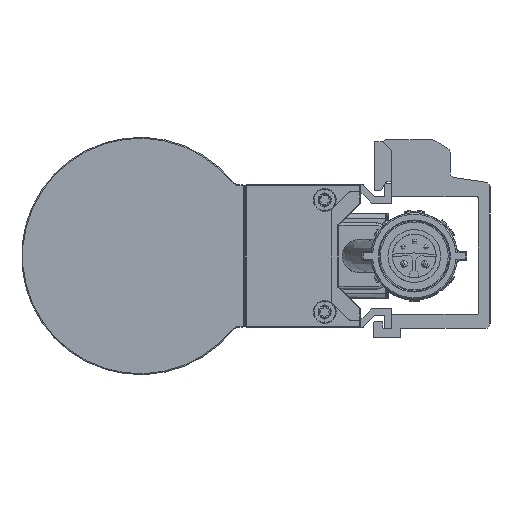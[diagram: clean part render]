
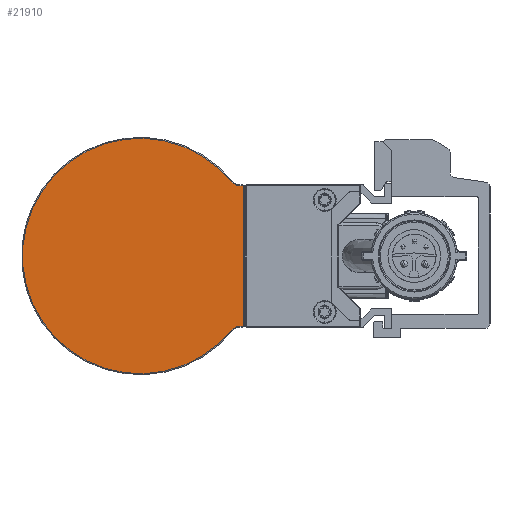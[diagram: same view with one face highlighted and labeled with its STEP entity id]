
A CAD part, left-side view. The second image highlights one B-rep face of the part: STEP entity #21910.
In plain terms, the highlighted planar face has unit normal (-1, 0, 0).
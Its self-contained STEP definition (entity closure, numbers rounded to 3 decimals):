
#428 = DIRECTION ( 'NONE',  ( 0., 0., 1. ) ) ;
#1470 = EDGE_CURVE ( 'NONE', #37093, #16774, #15887, .T. ) ;
#1682 = CARTESIAN_POINT ( 'NONE',  ( -600., 31.5, 14.8 ) ) ;
#2376 = VECTOR ( 'NONE', #36210, 1000. ) ;
#3142 = AXIS2_PLACEMENT_3D ( 'NONE', #9938, #25038, #428 ) ;
#6425 = ORIENTED_EDGE ( 'NONE', *, *, #26997, .T. ) ;
#8849 = CARTESIAN_POINT ( 'NONE',  ( -600., 32.025, -17. ) ) ;
#9938 = CARTESIAN_POINT ( 'NONE',  ( -600., 53.001, 0. ) ) ;
#10112 = DIRECTION ( 'NONE',  ( -1., 0., 0. ) ) ;
#10882 = LINE ( 'NONE', #1682, #2376 ) ;
#11208 = ORIENTED_EDGE ( 'NONE', *, *, #25994, .T. ) ;
#14611 = DIRECTION ( 'NONE',  ( -1., 0., 0. ) ) ;
#15751 = EDGE_CURVE ( 'NONE', #40723, #23819, #42455, .T. ) ;
#15887 = CIRCLE ( 'NONE', #46446, 2.2 ) ;
#16774 = VERTEX_POINT ( 'NONE', #43601 ) ;
#18210 = CARTESIAN_POINT ( 'NONE',  ( -600., 31.2, -14.5 ) ) ;
#18547 = DIRECTION ( 'NONE',  ( -1., 0., 0. ) ) ;
#18673 = DIRECTION ( 'NONE',  ( 1., 0., 0. ) ) ;
#18766 = CARTESIAN_POINT ( 'NONE',  ( -600., 33.734, -15.615 ) ) ;
#20291 = AXIS2_PLACEMENT_3D ( 'NONE', #55236, #10112, #45389 ) ;
#21621 = EDGE_CURVE ( 'NONE', #23819, #52002, #64334, .T. ) ;
#21910 = ADVANCED_FACE ( 'NONE', ( #60628 ), #44872, .T. ) ;
#22840 = DIRECTION ( 'NONE',  ( 0., -1., 0. ) ) ;
#23023 = VECTOR ( 'NONE', #58432, 1000. ) ;
#23819 = VERTEX_POINT ( 'NONE', #54661 ) ;
#25038 = DIRECTION ( 'NONE',  ( -1., 0., 0. ) ) ;
#25241 = CARTESIAN_POINT ( 'NONE',  ( -600., 32.025, -14.8 ) ) ;
#25994 = EDGE_CURVE ( 'NONE', #47251, #26191, #60302, .T. ) ;
#26191 = VERTEX_POINT ( 'NONE', #25241 ) ;
#26309 = CARTESIAN_POINT ( 'NONE',  ( -600., 31.5, -14.8 ) ) ;
#26997 = EDGE_CURVE ( 'NONE', #26191, #40723, #40875, .T. ) ;
#27893 = ORIENTED_EDGE ( 'NONE', *, *, #1470, .T. ) ;
#29240 = AXIS2_PLACEMENT_3D ( 'NONE', #54170, #18547, #22840 ) ;
#29248 = ORIENTED_EDGE ( 'NONE', *, *, #48729, .T. ) ;
#29872 = CIRCLE ( 'NONE', #31984, 24.8 ) ;
#30644 = EDGE_CURVE ( 'NONE', #52002, #39266, #49276, .T. ) ;
#30689 = ORIENTED_EDGE ( 'NONE', *, *, #21621, .T. ) ;
#31984 = AXIS2_PLACEMENT_3D ( 'NONE', #39694, #14611, #42295 ) ;
#35946 = EDGE_CURVE ( 'NONE', #16774, #47251, #29872, .T. ) ;
#36210 = DIRECTION ( 'NONE',  ( 0., 1., 0. ) ) ;
#37093 = VERTEX_POINT ( 'NONE', #58871 ) ;
#39266 = VERTEX_POINT ( 'NONE', #40739 ) ;
#39341 = CARTESIAN_POINT ( 'NONE',  ( -600., 31.2, 14.5 ) ) ;
#39694 = CARTESIAN_POINT ( 'NONE',  ( -600., 53.001, 0. ) ) ;
#40723 = VERTEX_POINT ( 'NONE', #26309 ) ;
#40739 = CARTESIAN_POINT ( 'NONE',  ( -600., 31.5, 14.8 ) ) ;
#40875 = LINE ( 'NONE', #46136, #55154 ) ;
#41194 = DIRECTION ( 'NONE',  ( 0., -1., 0. ) ) ;
#42295 = DIRECTION ( 'NONE',  ( 0., -0.777, 0.63 ) ) ;
#42455 = CIRCLE ( 'NONE', #20291, 0.3 ) ;
#42736 = CARTESIAN_POINT ( 'NONE',  ( -600., 32.025, 17. ) ) ;
#43601 = CARTESIAN_POINT ( 'NONE',  ( -600., 33.734, 15.614 ) ) ;
#44111 = DIRECTION ( 'NONE',  ( 0., 0.777, 0.63 ) ) ;
#44872 = PLANE ( 'NONE',  #3142 ) ;
#45389 = DIRECTION ( 'NONE',  ( 0., 0., -1. ) ) ;
#46136 = CARTESIAN_POINT ( 'NONE',  ( -600., 32.025, -14.8 ) ) ;
#46446 = AXIS2_PLACEMENT_3D ( 'NONE', #42736, #48622, #52908 ) ;
#47251 = VERTEX_POINT ( 'NONE', #18766 ) ;
#47837 = EDGE_LOOP ( 'NONE', ( #6425, #53983, #30689, #64679, #29248, #27893, #62682, #11208 ) ) ;
#48622 = DIRECTION ( 'NONE',  ( 1., 0., 0. ) ) ;
#48729 = EDGE_CURVE ( 'NONE', #39266, #37093, #10882, .T. ) ;
#49276 = CIRCLE ( 'NONE', #29240, 0.3 ) ;
#51895 = AXIS2_PLACEMENT_3D ( 'NONE', #8849, #18673, #44111 ) ;
#52002 = VERTEX_POINT ( 'NONE', #39341 ) ;
#52908 = DIRECTION ( 'NONE',  ( 0., 0., -1. ) ) ;
#53983 = ORIENTED_EDGE ( 'NONE', *, *, #15751, .T. ) ;
#54170 = CARTESIAN_POINT ( 'NONE',  ( -600., 31.5, 14.5 ) ) ;
#54661 = CARTESIAN_POINT ( 'NONE',  ( -600., 31.2, -14.5 ) ) ;
#55154 = VECTOR ( 'NONE', #41194, 1000. ) ;
#55236 = CARTESIAN_POINT ( 'NONE',  ( -600., 31.5, -14.5 ) ) ;
#58432 = DIRECTION ( 'NONE',  ( 0., 0., 1. ) ) ;
#58871 = CARTESIAN_POINT ( 'NONE',  ( -600., 32.025, 14.8 ) ) ;
#60302 = CIRCLE ( 'NONE', #51895, 2.2 ) ;
#60628 = FACE_OUTER_BOUND ( 'NONE', #47837, .T. ) ;
#62682 = ORIENTED_EDGE ( 'NONE', *, *, #35946, .T. ) ;
#64334 = LINE ( 'NONE', #18210, #23023 ) ;
#64679 = ORIENTED_EDGE ( 'NONE', *, *, #30644, .T. ) ;
